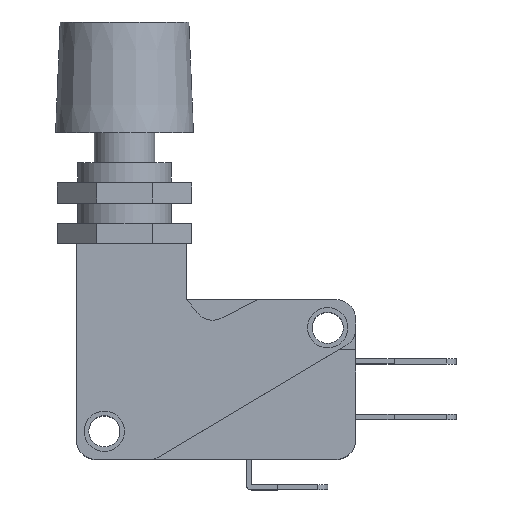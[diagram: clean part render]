
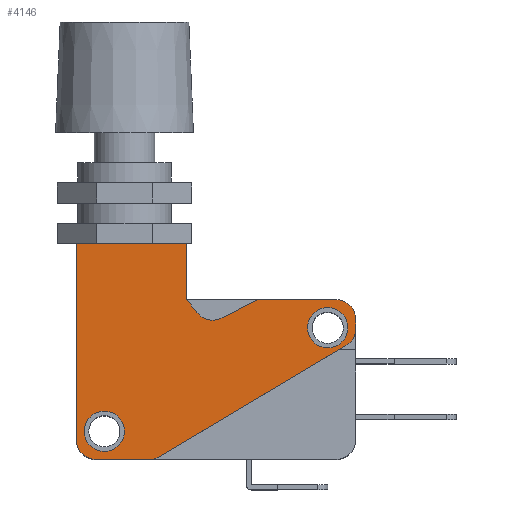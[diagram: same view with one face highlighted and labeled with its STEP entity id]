
A CAD part, top view. The second image highlights one B-rep face of the part: STEP entity #4146.
In plain terms, the highlighted planar face has unit normal (0, 0, 1).
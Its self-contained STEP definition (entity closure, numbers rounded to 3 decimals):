
#49=FACE_BOUND('',#757,.T.);
#50=FACE_BOUND('',#758,.T.);
#123=CIRCLE('',#4407,2.);
#125=CIRCLE('',#4410,2.);
#128=CIRCLE('',#4414,2.);
#130=CIRCLE('',#4418,2.);
#132=CIRCLE('',#4422,2.);
#134=CIRCLE('',#4426,2.);
#136=CIRCLE('',#4431,2.);
#506=FACE_OUTER_BOUND('',#756,.T.);
#756=EDGE_LOOP('',(#3352,#3353,#3354,#3355,#3356,#3357,#3358,#3359,#3360,
#3361,#3362,#3363,#3364,#3365));
#757=EDGE_LOOP('',(#3366));
#758=EDGE_LOOP('',(#3367));
#1109=LINE('',#6262,#1563);
#1120=LINE('',#6309,#1574);
#1124=LINE('',#6321,#1578);
#1128=LINE('',#6333,#1582);
#1132=LINE('',#6343,#1586);
#1135=LINE('',#6351,#1589);
#1139=LINE('',#6363,#1593);
#1142=LINE('',#6367,#1596);
#1143=LINE('',#6369,#1597);
#1563=VECTOR('',#5111,11.);
#1574=VECTOR('',#5160,0.863);
#1578=VECTOR('',#5172,21.585);
#1582=VECTOR('',#5184,5.25);
#1586=VECTOR('',#5196,19.5);
#1589=VECTOR('',#5201,1.624);
#1593=VECTOR('',#5213,3.946);
#1596=VECTOR('',#5218,7.8);
#1597=VECTOR('',#5221,5.6);
#1973=VERTEX_POINT('',#6259);
#1974=VERTEX_POINT('',#6261);
#1982=VERTEX_POINT('',#6287);
#1984=VERTEX_POINT('',#6292);
#1988=VERTEX_POINT('',#6300);
#1989=VERTEX_POINT('',#6302);
#1991=VERTEX_POINT('',#6308);
#1993=VERTEX_POINT('',#6314);
#1995=VERTEX_POINT('',#6320);
#1997=VERTEX_POINT('',#6326);
#1999=VERTEX_POINT('',#6332);
#2001=VERTEX_POINT('',#6338);
#2004=VERTEX_POINT('',#6348);
#2005=VERTEX_POINT('',#6350);
#2007=VERTEX_POINT('',#6356);
#2009=VERTEX_POINT('',#6362);
#2446=EDGE_CURVE('',#1974,#1973,#1109,.T.);
#2457=EDGE_CURVE('',#1982,#1982,#123,.T.);
#2459=EDGE_CURVE('',#1984,#1984,#125,.T.);
#2463=EDGE_CURVE('',#1989,#1988,#128,.T.);
#2466=EDGE_CURVE('',#1991,#1989,#1120,.T.);
#2469=EDGE_CURVE('',#1993,#1991,#130,.T.);
#2472=EDGE_CURVE('',#1995,#1993,#1124,.T.);
#2475=EDGE_CURVE('',#1997,#1995,#132,.T.);
#2478=EDGE_CURVE('',#1999,#1997,#1128,.T.);
#2481=EDGE_CURVE('',#2001,#1999,#134,.T.);
#2484=EDGE_CURVE('',#1973,#2001,#1132,.T.);
#2487=EDGE_CURVE('',#2005,#2004,#1135,.T.);
#2490=EDGE_CURVE('',#2007,#2005,#136,.T.);
#2493=EDGE_CURVE('',#2009,#2007,#1139,.T.);
#2496=EDGE_CURVE('',#1988,#2009,#1142,.T.);
#2497=EDGE_CURVE('',#2004,#1974,#1143,.T.);
#3352=ORIENTED_EDGE('',*,*,#2496,.T.);
#3353=ORIENTED_EDGE('',*,*,#2493,.T.);
#3354=ORIENTED_EDGE('',*,*,#2490,.T.);
#3355=ORIENTED_EDGE('',*,*,#2487,.T.);
#3356=ORIENTED_EDGE('',*,*,#2497,.T.);
#3357=ORIENTED_EDGE('',*,*,#2446,.T.);
#3358=ORIENTED_EDGE('',*,*,#2484,.T.);
#3359=ORIENTED_EDGE('',*,*,#2481,.T.);
#3360=ORIENTED_EDGE('',*,*,#2478,.T.);
#3361=ORIENTED_EDGE('',*,*,#2475,.T.);
#3362=ORIENTED_EDGE('',*,*,#2472,.T.);
#3363=ORIENTED_EDGE('',*,*,#2469,.T.);
#3364=ORIENTED_EDGE('',*,*,#2466,.T.);
#3365=ORIENTED_EDGE('',*,*,#2463,.T.);
#3366=ORIENTED_EDGE('',*,*,#2457,.T.);
#3367=ORIENTED_EDGE('',*,*,#2459,.T.);
#3949=PLANE('',#4434);
#4146=ADVANCED_FACE('',(#506,#49,#50),#3949,.T.);
#4407=AXIS2_PLACEMENT_3D('',#6288,#5139,#5140);
#4410=AXIS2_PLACEMENT_3D('',#6293,#5145,#5146);
#4414=AXIS2_PLACEMENT_3D('',#6303,#5154,#5155);
#4418=AXIS2_PLACEMENT_3D('',#6315,#5166,#5167);
#4422=AXIS2_PLACEMENT_3D('',#6327,#5178,#5179);
#4426=AXIS2_PLACEMENT_3D('',#6339,#5190,#5191);
#4431=AXIS2_PLACEMENT_3D('',#6357,#5207,#5208);
#4434=AXIS2_PLACEMENT_3D('',#6368,#5219,#5220);
#5111=DIRECTION('',(-1.,0.,0.));
#5139=DIRECTION('center_axis',(0.,0.,-1.));
#5140=DIRECTION('ref_axis',(-1.,0.,0.));
#5145=DIRECTION('center_axis',(0.,0.,-1.));
#5146=DIRECTION('ref_axis',(-1.,0.,0.));
#5154=DIRECTION('center_axis',(0.,0.,1.));
#5155=DIRECTION('ref_axis',(1.,0.,0.));
#5160=DIRECTION('',(0.,1.,0.));
#5166=DIRECTION('center_axis',(0.,0.,1.));
#5167=DIRECTION('ref_axis',(0.511,-0.859,0.));
#5172=DIRECTION('',(0.859,0.511,0.));
#5178=DIRECTION('center_axis',(0.,0.,1.));
#5179=DIRECTION('ref_axis',(0.,-1.,0.));
#5184=DIRECTION('',(1.,0.,0.));
#5190=DIRECTION('center_axis',(0.,0.,1.));
#5191=DIRECTION('ref_axis',(-1.,0.,0.));
#5196=DIRECTION('',(0.,-1.,0.));
#5201=DIRECTION('',(-0.616,0.788,0.));
#5207=DIRECTION('center_axis',(0.,0.,-1.));
#5208=DIRECTION('ref_axis',(0.788,0.616,0.));
#5213=DIRECTION('',(-0.887,-0.462,0.));
#5218=DIRECTION('',(-1.,0.,0.));
#5219=DIRECTION('center_axis',(0.,0.,1.));
#5220=DIRECTION('ref_axis',(1.,0.,0.));
#5221=DIRECTION('',(0.,1.,0.));
#6259=CARTESIAN_POINT('',(-13.9,13.55,6.25));
#6261=CARTESIAN_POINT('',(-2.9,13.55,6.25));
#6262=CARTESIAN_POINT('',(-2.9,13.55,6.25));
#6287=CARTESIAN_POINT('',(13.1,5.15,6.25));
#6288=CARTESIAN_POINT('Origin',(11.1,5.15,6.25));
#6292=CARTESIAN_POINT('',(-9.1,-5.15,6.25));
#6293=CARTESIAN_POINT('Origin',(-11.1,-5.15,6.25));
#6300=CARTESIAN_POINT('',(11.9,7.95,6.25));
#6302=CARTESIAN_POINT('',(13.9,5.95,6.25));
#6303=CARTESIAN_POINT('Origin',(11.9,5.95,6.25));
#6308=CARTESIAN_POINT('',(13.9,5.087,6.25));
#6309=CARTESIAN_POINT('',(13.9,5.087,6.25));
#6314=CARTESIAN_POINT('',(12.923,3.368,6.25));
#6315=CARTESIAN_POINT('Origin',(11.9,5.087,6.25));
#6320=CARTESIAN_POINT('',(-5.627,-7.669,6.25));
#6321=CARTESIAN_POINT('',(-5.627,-7.669,6.25));
#6326=CARTESIAN_POINT('',(-6.65,-7.95,6.25));
#6327=CARTESIAN_POINT('Origin',(-6.65,-5.95,6.25));
#6332=CARTESIAN_POINT('',(-11.9,-7.95,6.25));
#6333=CARTESIAN_POINT('',(-11.9,-7.95,6.25));
#6338=CARTESIAN_POINT('',(-13.9,-5.95,6.25));
#6339=CARTESIAN_POINT('Origin',(-11.9,-5.95,6.25));
#6343=CARTESIAN_POINT('',(-13.9,13.55,6.25));
#6348=CARTESIAN_POINT('',(-2.9,7.95,6.25));
#6350=CARTESIAN_POINT('',(-1.9,6.67,6.25));
#6351=CARTESIAN_POINT('',(-1.9,6.67,6.25));
#6356=CARTESIAN_POINT('',(0.6,6.127,6.25));
#6357=CARTESIAN_POINT('Origin',(-0.324,7.901,6.25));
#6362=CARTESIAN_POINT('',(4.1,7.95,6.25));
#6363=CARTESIAN_POINT('',(4.1,7.95,6.25));
#6367=CARTESIAN_POINT('',(11.9,7.95,6.25));
#6368=CARTESIAN_POINT('Origin',(-1.887,1.628,6.25));
#6369=CARTESIAN_POINT('',(-2.9,7.95,6.25));
